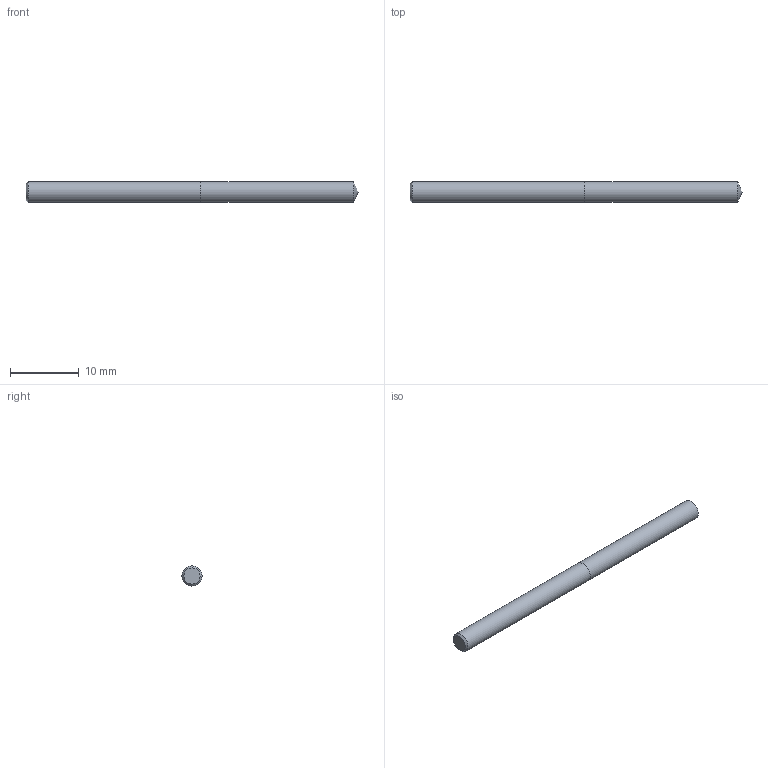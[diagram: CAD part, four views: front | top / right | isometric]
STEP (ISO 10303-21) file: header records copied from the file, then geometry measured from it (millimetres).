
FILE_DESCRIPTION (( 'STEP AP214' ), '1' );
FILE_NAME ('03-2374.STEP', '2022-06-03T06:54:32', ( 'USER' ), ( '' ), 'SwSTEP 2.0', 'SolidWorks 2018', '' );
FILE_SCHEMA (( 'AUTOMOTIVE_DESIGN' ));
Length unit declared in the file: inch
Products named in the file (1): 03-2374
Bounding box: 48.24 x 2.95 x 2.95 mm (x, y, z)
Volume: 325.7 mm3; surface area: 467 mm2
Topology: 2 solids, 2 shells, 7 faces, 11 edges, 7 vertices
Faces by surface type: plane 3, cylinder 2, cone 2
Full cylindrical faces by diameter (mm): 2.946 x2
Entity records: 214 total; most frequent: DIRECTION 26, CARTESIAN_POINT 18, AXIS2_PLACEMENT_3D 13, EDGE_LOOP 10, ORIENTED_EDGE 10, FACE_OUTER_BOUND 9, LENGTH_MEASURE_WITH_UNIT 7, UNCERTAINTY_MEASURE_WITH_UNIT 7
